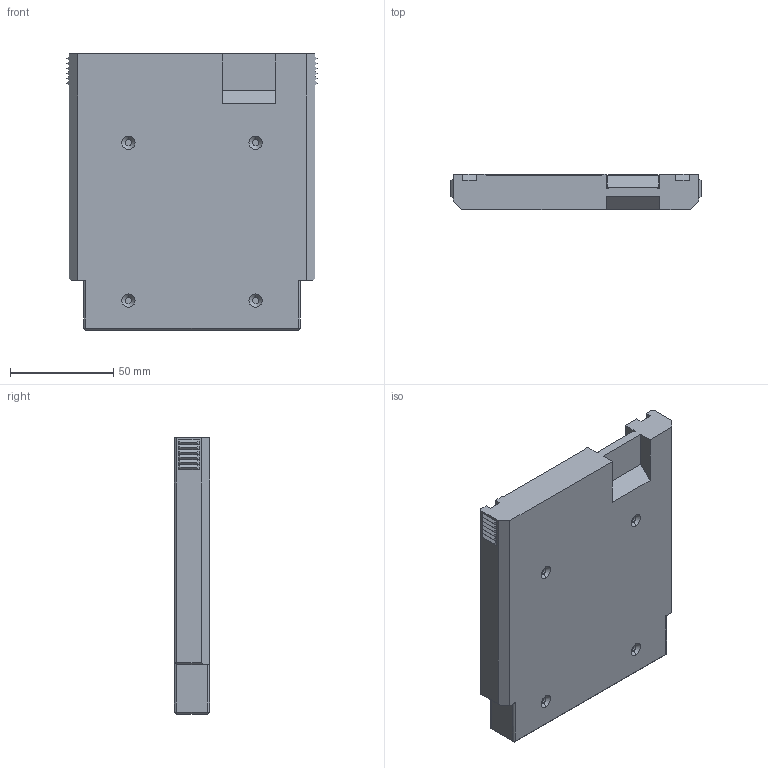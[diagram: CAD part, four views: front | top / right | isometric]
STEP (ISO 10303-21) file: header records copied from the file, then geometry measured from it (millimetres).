
FILE_DESCRIPTION (( 'STEP AP214' ), '1' );
FILE_NAME ('cartridge.STEP', '2015-02-04T04:04:41', ( '' ), ( '' ), 'SwSTEP 2.0', 'SolidWorks 2013', '' );
FILE_SCHEMA (( 'AUTOMOTIVE_DESIGN' ));
Length unit declared in the file: millimetre
Products named in the file (1): cartridge
Bounding box: 121.4 x 17 x 134 mm (x, y, z)
Volume: 169596.2 mm3; surface area: 56968.9 mm2
Topology: 1 solids, 1 shells, 269 faces, 646 edges, 404 vertices
Faces by surface type: plane 225, cylinder 24, cone 20
Entity records: 7628 total; most frequent: CARTESIAN_POINT 1346, ORIENTED_EDGE 1284, DIRECTION 1228, EDGE_CURVE 642, VECTOR 576, LINE 576, VERTEX_POINT 404, AXIS2_PLACEMENT_3D 326
